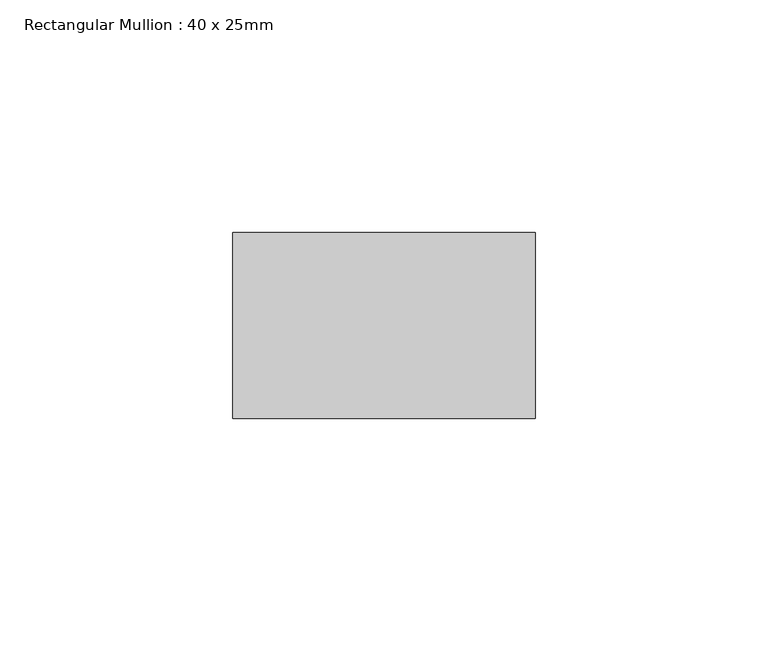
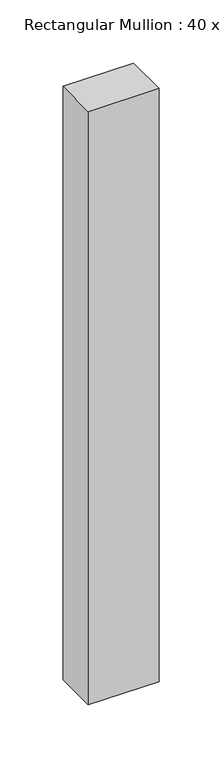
"""IFC4 building model written with IfcOpenShell, lengths in millimetres: member geometry, Rectangular Mullion : 40 x 25mm."""

import ifcopenshell
import ifcopenshell.guid

model = None  # the IFC model being written
_history = None  # IfcOwnerHistory: only IFC2X3 demands one
_inside = {}  # id of a spatial element -> (the spatial element, [elements in it])
_under = {}  # id of a project, library or spatial element -> (it, [spatial elements below it])
_declared = {}  # id of a project -> (the project, [libraries it declares])
_typed = {}  # id of a type object -> (the type object, [elements of that type])
_made_of = {}  # id of a material, layer set ... -> (it, [elements and type objects made of it])


def new_model(schema):
    """Start an empty IFC model of exactly this schema.

    Asked for "IFC4X3", IfcOpenShell would pick the latest addendum, in which some entities
    have other attributes; the version numbers below select the first issue.
    IFC2X3 requires an IfcOwnerHistory on every rooted entity: one is made here for all.
    """
    global model, _history
    if schema == "IFC4X3":
        model = ifcopenshell.file(schema_version=(4, 3, 0, 0))
    else:
        model = ifcopenshell.file(schema=schema)
    _inside.clear()
    _under.clear()
    _declared.clear()
    _typed.clear()
    _made_of.clear()
    _history = None
    if model.schema == "IFC2X3":
        org = make("IfcOrganization", Name="unknown")
        user = make(
            "IfcPersonAndOrganization",
            ThePerson=make("IfcPerson", FamilyName="unknown"),
            TheOrganization=org,
        )
        app = make(
            "IfcApplication",
            ApplicationDeveloper=org,
            Version="unknown",
            ApplicationFullName="unknown",
            ApplicationIdentifier="unknown",
        )
        _history = make(
            "IfcOwnerHistory",
            OwningUser=user,
            OwningApplication=app,
            ChangeAction="ADDED",
            CreationDate=0,
        )
    return model


def make(cls, **values):
    """One entity of the class cls with the attributes given. An attribute that is None is left unset."""
    return model.create_entity(
        cls, **{name: value for name, value in values.items() if value is not None}
    )


def rooted(cls, **values):
    """An entity with a GlobalId (a new one), such as an element, a storey or a relation."""
    return make(cls, GlobalId=ifcopenshell.guid.new(), OwnerHistory=_history, **values)


def si_unit(unit_type, name, prefix=None):
    """IfcSIUnit, for example si_unit("LENGTHUNIT", "METRE", prefix="MILLI")."""
    return make("IfcSIUnit", UnitType=unit_type, Prefix=prefix, Name=name)


def assignment(units):
    """IfcUnitAssignment: the units of a project."""
    return None if units is None else make("IfcUnitAssignment", Units=units)


def point(xyz):
    """IfcCartesianPoint."""
    return None if xyz is None else make("IfcCartesianPoint", Coordinates=xyz)


def direction(xyz):
    """IfcDirection."""
    return None if xyz is None else make("IfcDirection", DirectionRatios=xyz)


def frame(location, z_axis=None, x_axis=None):
    """IfcAxis2Placement3D, a coordinate frame: its origin and axes. An axis left out is left unset."""
    return make(
        "IfcAxis2Placement3D",
        Location=point(location),
        Axis=direction(z_axis),
        RefDirection=direction(x_axis),
    )


def origin():
    """The frame at (0, 0, 0) with its axes left unset."""
    return frame((0.0, 0.0, 0.0))


def place(relative_to, where):
    """IfcLocalPlacement: puts the frame where relative to a parent placement (None: the world)."""
    return make(
        "IfcLocalPlacement", PlacementRelTo=relative_to, RelativePlacement=where
    )


def context(
    kind, dimensions, precision=None, world=None, true_north=None, identifier=None
):
    """IfcGeometricRepresentationContext, for example the 3D "Model" context."""
    return make(
        "IfcGeometricRepresentationContext",
        ContextIdentifier=identifier,
        ContextType=kind,
        CoordinateSpaceDimension=dimensions,
        Precision=precision,
        WorldCoordinateSystem=world,
        TrueNorth=true_north,
    )


def project(units=None, contexts=None):
    """IfcProject with its units and contexts."""
    return rooted(
        "IfcProject",
        Name="project",
        RepresentationContexts=contexts,
        UnitsInContext=assignment(units),
    )


def spatial(cls, under=None, at=None, **own):
    """A site, building, storey or space (cls), placed at a placement, below another one or the project."""
    s = rooted(cls, ObjectPlacement=at, **own)
    if under is not None:
        _under.setdefault(under.id(), (under, []))[1].append(s)
    return s


def polyline(points):
    """IfcPolyline through the points."""
    return make("IfcPolyline", Points=[point(p) for p in points])


def outline(outer, holes=None, kind="AREA"):
    """IfcArbitraryClosedProfileDef: a profile drawn as a closed curve; with holes, ...WithVoids."""
    if holes is None:
        return make("IfcArbitraryClosedProfileDef", ProfileType=kind, OuterCurve=outer)
    return make(
        "IfcArbitraryProfileDefWithVoids",
        ProfileType=kind,
        OuterCurve=outer,
        InnerCurves=holes,
    )


def extrude(swept, where, along, depth):
    """IfcExtrudedAreaSolid: the profile swept, set in the frame where, extruded along a direction by depth."""
    return make(
        "IfcExtrudedAreaSolid",
        SweptArea=swept,
        Position=where,
        ExtrudedDirection=direction(along),
        Depth=depth,
    )


def shape(context_of_items, identifier, shape_type, items):
    """IfcShapeRepresentation: the items that make up one representation, for example the "Body"."""
    return make(
        "IfcShapeRepresentation",
        ContextOfItems=context_of_items,
        RepresentationIdentifier=identifier,
        RepresentationType=shape_type,
        Items=items,
    )


def source(mapping_origin, context_of_items, identifier, shape_type, items):
    """IfcRepresentationMap: a shape defined once, which mapped items show again and again."""
    return make(
        "IfcRepresentationMap",
        MappingOrigin=mapping_origin,
        MappedRepresentation=shape(context_of_items, identifier, shape_type, items),
    )


def transform(
    local_origin,
    x_axis=None,
    y_axis=None,
    z_axis=None,
    scale=None,
    scale2=None,
    scale3=None,
    uniform=True,
):
    """IfcCartesianTransformationOperator3D, or its non-uniform kind. x_axis, y_axis, z_axis: its Axis1, 2, 3."""
    if uniform:
        return make(
            "IfcCartesianTransformationOperator3D",
            Axis1=direction(x_axis),
            Axis2=direction(y_axis),
            LocalOrigin=point(local_origin),
            Scale=scale,
            Axis3=direction(z_axis),
        )
    return make(
        "IfcCartesianTransformationOperator3DnonUniform",
        Axis1=direction(x_axis),
        Axis2=direction(y_axis),
        LocalOrigin=point(local_origin),
        Scale=scale,
        Axis3=direction(z_axis),
        Scale2=scale2,
        Scale3=scale3,
    )


def mapped(mapping_source, mapping_target):
    """IfcMappedItem: shows the shape of a source again, moved by a transform."""
    return make(
        "IfcMappedItem", MappingSource=mapping_source, MappingTarget=mapping_target
    )


def made_of(thing, what):
    """Note that an element or type object is made of a material, layer set ...; save() writes the relation."""
    if what is not None:
        _made_of.setdefault(what.id(), (what, []))[1].append(thing)
    return thing


def element(
    cls,
    number,
    at=None,
    inside=None,
    cuts=None,
    type_object=None,
    material=None,
    context=None,
    identifier="Body",
    shape_type=None,
    held_by="IfcProductDefinitionShape",
    body=None,
    shapes=None,
    **own,
):
    """One element of the class cls, such as IfcWall. Its Tag is "e" and its number.

    at: its placement. inside: the storey or other place that contains it. cuts: it is an
    opening in that element (IfcRelVoidsElement). A single representation is given by context,
    identifier, shape_type and body (its items); several are given by shapes. held_by: the class
    of the entity that holds the representations. save() writes the other relations.
    """
    e = rooted(cls, Tag="e%d" % number, ObjectPlacement=at, **own)
    if body is not None:
        shapes = [shape(context, identifier, shape_type, body)]
    if shapes is not None:
        e.Representation = make(held_by, Representations=shapes)
    if inside is not None:
        _inside.setdefault(inside.id(), (inside, []))[1].append(e)
    if cuts is not None:
        rooted(
            "IfcRelVoidsElement", RelatingBuildingElement=cuts, RelatedOpeningElement=e
        )
    if type_object is not None:
        _typed.setdefault(type_object.id(), (type_object, []))[1].append(e)
    return made_of(e, material)


def aggregate(whole, parts):
    """IfcRelAggregates: a whole, such as a stair, and the parts it consists of."""
    return rooted("IfcRelAggregates", RelatingObject=whole, RelatedObjects=parts)


def save(model, path):
    """Write the relations noted so far, then the file.

    IfcRelAggregates (storeys below a building ...), IfcRelContainedInSpatialStructure (elements
    in a storey), IfcRelDefinesByType, IfcRelAssociatesMaterial and IfcRelDeclares: one each for
    every whole, place, type object, material and project.
    """
    for whole, parts in _under.values():
        aggregate(whole, parts)
    for where, things in _inside.values():
        rooted(
            "IfcRelContainedInSpatialStructure",
            RelatedElements=things,
            RelatingStructure=where,
        )
    for kind, things in _typed.values():
        rooted("IfcRelDefinesByType", RelatedObjects=things, RelatingType=kind)
    for what, things in _made_of.values():
        rooted("IfcRelAssociatesMaterial", RelatedObjects=things, RelatingMaterial=what)
    for by, libraries in _declared.values():
        rooted("IfcRelDeclares", RelatingContext=by, RelatedDefinitions=libraries)
    model.write(path)


def rectangular_mullion_40_x_25mm_03dd24ba(model_context):
    return source(origin(), model_context, "Body", "SweptSolid", [
        extrude(outline(polyline([(0.0, -20.0), (0.0, -60.0), (-65.0, -60.0), (-65.0, -20.0), (0.0, -20.0)])), frame((0.0, 0.0, -575.0), z_axis=(0.0, 0.0, 1.0), x_axis=(1.0, 0.0, 0.0)), (0.0, 0.0, 1.0), 575.0),
    ])


if __name__ == "__main__":
    model = new_model("IFC4")
    model_context = context("Model", 3, world=origin())
    ifc_project = project(units=[si_unit("LENGTHUNIT", "METRE", prefix="MILLI")], contexts=[model_context])
    site = spatial("IfcSite", under=ifc_project)
    building = spatial("IfcBuilding", under=site)
    placement = place(None, origin())
    rectangular_mullion_40_x_25mm_shape = rectangular_mullion_40_x_25mm_03dd24ba(model_context)
    element("IfcMember", 1, ObjectType="Rectangular Mullion : 40 x 25mm", at=placement, inside=building, context=model_context, shape_type="MappedRepresentation", body=[
        mapped(rectangular_mullion_40_x_25mm_shape, transform((0.0, 0.0, 0.0), x_axis=(1.0, 0.0, 0.0), y_axis=(0.0, 1.0, 0.0), z_axis=(0.0, 0.0, 1.0))),
    ])
    save(model, "model.ifc")
